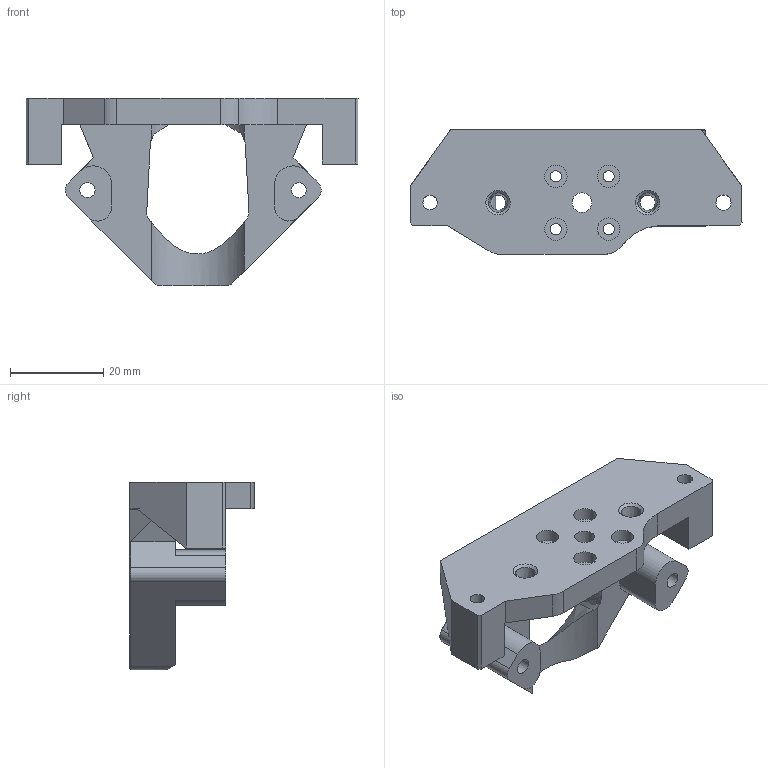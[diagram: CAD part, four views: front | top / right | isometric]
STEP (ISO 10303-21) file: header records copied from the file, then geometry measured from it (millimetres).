
FILE_DESCRIPTION(/* description */ (''),/* implementation_level */ '2;1');
FILE_NAME(/* name */ 'C:/Users/Martin/Documents/icarus-2.1/icarus-2-current-step-files/2-mounts/mount-sherpa-micro-r1-rapido-hf-2.1.step',/* time_stamp */ '2022-08-22T19:16:19+02:00',/* author */ (''),/* organization */ (''),/* preprocessor_version */ 'ST-DEVELOPER v19',/* originating_system */ 'Autodesk Translation Framework v11.7.0.108',/* authorisation */ '');
FILE_SCHEMA (('AUTOMOTIVE_DESIGN { 1 0 10303 214 3 1 1 }'));
Length unit declared in the file: millimetre
Products named in the file (1): mount-rapido
Bounding box: 71.07 x 26.66 x 40.18 mm (x, y, z)
Volume: 16817.3 mm3; surface area: 9288 mm2
Topology: 1 solids, 1 shells, 108 faces, 289 edges, 186 vertices
Faces by surface type: plane 45, cylinder 29, bspline 26, cone 8
Full cylindrical faces by diameter (mm): 2.4 x4, 3.1 x1, 3.25 x6, 4.2 x1, 4.8 x4
Entity records: 4387 total; most frequent: CARTESIAN_POINT 1752, ORIENTED_EDGE 578, DIRECTION 457, EDGE_CURVE 289, VERTEX_POINT 186, LINE 163, VECTOR 163, AXIS2_PLACEMENT_3D 147
